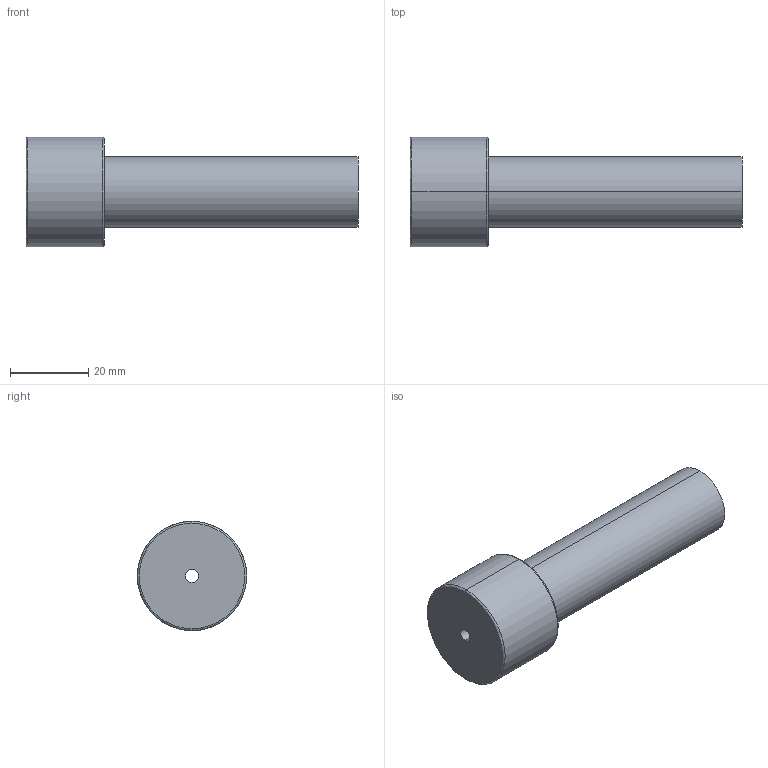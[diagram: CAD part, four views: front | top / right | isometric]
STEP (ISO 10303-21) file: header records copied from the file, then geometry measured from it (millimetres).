
FILE_DESCRIPTION(('CATIA V5 STEP Exchange'),'2;1');
FILE_NAME('C:\Users\Utente\Desktop\IO LAVORO\3D X SITO CF\X SITO\PLASTICA\3D files 367\367-18X85.stp','2021-03-24T15:45:39+00:00',('none'),('none'),'CATIA Version 5 Release 20 GA (IN-10)','CATIA V5 STEP AP203','none');
FILE_SCHEMA(('CONFIG_CONTROL_DESIGN'));
Length unit declared in the file: millimetre
Products named in the file (1): 367-18X85
Bounding box: 85 x 28 x 28 mm (x, y, z)
Volume: 26697.5 mm3; surface area: 8048.8 mm2
Topology: 1 solids, 1 shells, 13 faces, 42 edges, 32 vertices
Faces by surface type: torus 4, cylinder 4, plane 3, cone 2
Entity records: 608 total; most frequent: CARTESIAN_POINT 194, ORIENTED_EDGE 84, DIRECTION 60, AXIS2_PLACEMENT_3D 42, EDGE_CURVE 42, VERTEX_POINT 32, CIRCLE 28, EDGE_LOOP 16
